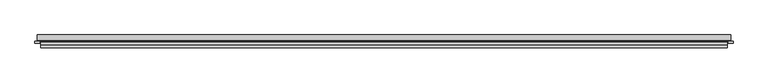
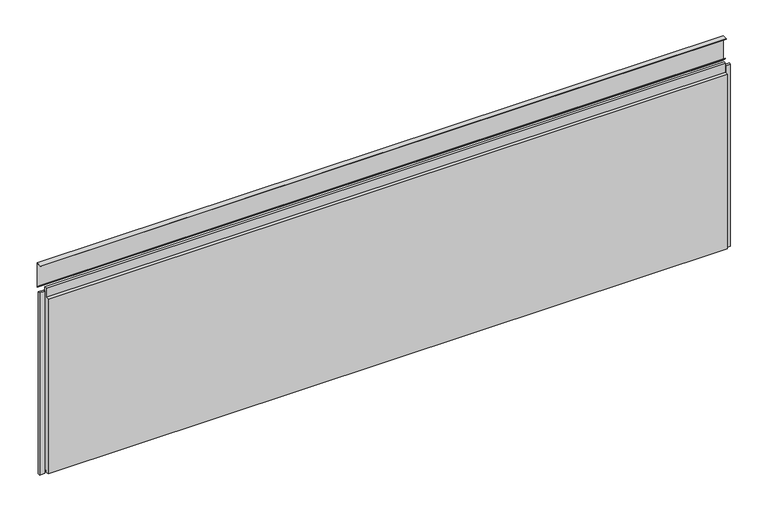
"""IFC4 building model written with IfcOpenShell, lengths in millimetres: plate geometry, Trimo_Qbiss Screen_Normal Panel-HORIZONTAL : HR - B."""

from ifc_helpers import new_model, si_unit, frame, origin, place, context, project, spatial, polyline, outline, extrude, source, transform, mapped, element, save


def plate_5dd15955(model_context):
    return source(origin(), model_context, "Body", "SweptSolid", [
        extrude(outline(polyline([(100.0, 748.2), (85.8578644, 762.3421356), (86.4235498, 762.907821), (99.2, 750.1313708), (99.2, 847.3569759), (80.0692781, 846.3543772), (80.0692781, 847.1554751), (100.0, 848.2), (100.0, 748.2)])), frame((-1332.5, 0.0, 0.0), z_axis=(1.0, 0.0, 0.0), x_axis=(0.0, 1.0, 0.0)), (0.0, 0.0, 1.0), 2665.0),
        extrude(outline(polyline([(-1323.0, 76.5978162), (-1323.0, 67.8978162), (-1342.0, 67.8978162), (-1342.0, 76.5978162), (-1323.0, 76.5978162)])), frame((0.0, 0.0, -1.0), z_axis=(0.0, 0.0, 1.0), x_axis=(1.0, 0.0, 0.0)), (0.0, 0.0, 1.0), 748.2),
        extrude(outline(polyline([(1323.0, 67.8978162), (1323.0, 76.5978162), (1342.0, 76.5978162), (1342.0, 67.8978162), (1323.0, 67.8978162)])), frame((0.0, 0.0, -1.0), z_axis=(0.0, 0.0, 1.0), x_axis=(1.0, 0.0, 0.0)), (0.0, 0.0, 1.0), 748.2),
        extrude(outline(polyline([(1320.0, 76.0), (1320.0, 71.0), (-1320.0, 71.0), (-1320.0, 76.0), (1320.0, 76.0)])), frame((0.0, 0.0, 726.2), z_axis=(0.0, 0.0, 1.0), x_axis=(1.0, 0.0, 0.0)), (0.0, 0.0, 1.0), 21.0),
        extrude(outline(polyline([(71.0, 725.2), (100.0, 725.2), (100.0, 0.0), (72.0, 0.0), (72.0, 15.5), (62.0, 15.5), (62.0, 7.0), (50.0, 7.0), (50.0, 725.2), (63.0, 725.2), (63.0, 762.7), (71.0, 762.7), (71.0, 725.2)])), frame((-1320.0, 0.0, 0.0), z_axis=(1.0, 0.0, 0.0), x_axis=(0.0, 1.0, 0.0)), (0.0, 0.0, 1.0), 2640.0),
    ])


if __name__ == "__main__":
    model = new_model("IFC4")
    model_context = context("Model", 3, world=origin())
    ifc_project = project(units=[si_unit("LENGTHUNIT", "METRE", prefix="MILLI")], contexts=[model_context])
    site = spatial("IfcSite", under=ifc_project)
    building = spatial("IfcBuilding", under=site)
    placement = place(None, origin())
    plate_shape = plate_5dd15955(model_context)
    element("IfcPlate", 1, ObjectType="Trimo_Qbiss Screen_Normal Panel-HORIZONTAL : HR - B", at=placement, inside=building, context=model_context, shape_type="MappedRepresentation", body=[
        mapped(plate_shape, transform((0.0, 0.0, 0.0), x_axis=(1.0, 0.0, 0.0), y_axis=(0.0, 1.0, 0.0), z_axis=(0.0, 0.0, 1.0))),
    ])
    save(model, "model.ifc")
